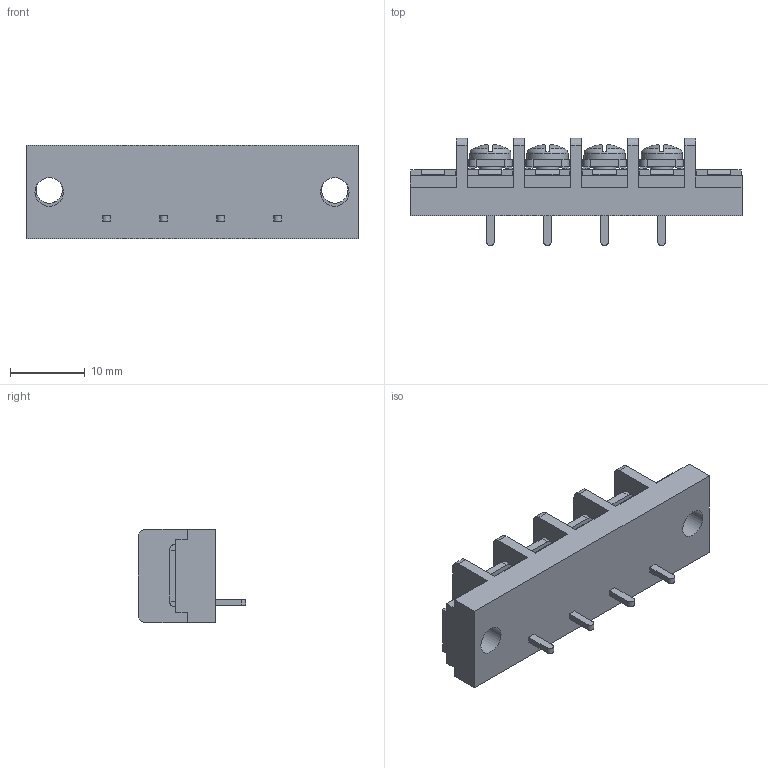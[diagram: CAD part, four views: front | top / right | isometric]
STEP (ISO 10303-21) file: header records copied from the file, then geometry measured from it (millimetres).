
FILE_DESCRIPTION(/* description */ ('Alibre Inc.'),/* implementation_level */ '2;1');
FILE_NAME(/* name */ 'export0',/* time_stamp */ '2015-10-26T17:29:57+09:00',/* author */ (''),/* organization */ (''),/* preprocessor_version */ 'ST-DEVELOPER v14',/* originating_system */ 'Alibre',/* authorisation */ '');
FILE_SCHEMA (('CONFIG_CONTROL_DESIGN'));
Length unit declared in the file: centimetre
Products named in the file (1): ID_1
Bounding box: 44.3 x 14.3 x 12.5 mm (x, y, z)
Volume: 3632.5 mm3; surface area: 3353.2 mm2
Topology: 1 solids, 17 shells, 828 faces, 2228 edges, 1472 vertices
Faces by surface type: plane 634, bspline 104, cylinder 58, cone 16, torus 8, sphere 8
Full cylindrical faces by diameter (mm): 3 x4, 3.5 x2, 3.8 x2, 5.5 x4
Entity records: 24693 total; most frequent: CARTESIAN_POINT 5673, ORIENTED_EDGE 4376, DIRECTION 2858, EDGE_CURVE 2188, VECTOR 1616, LINE 1616, VERTEX_POINT 1452, AXIS2_PLACEMENT_3D 909
